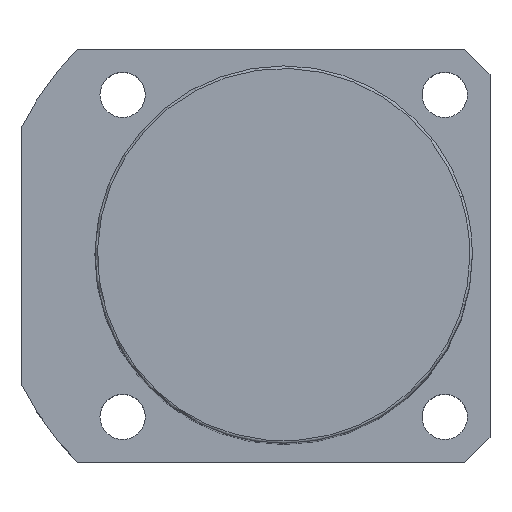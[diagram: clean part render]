
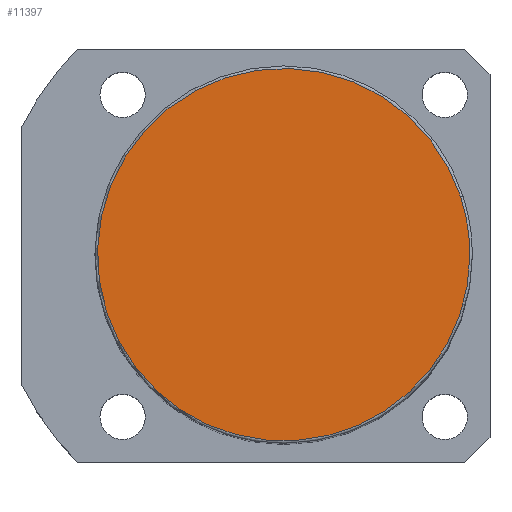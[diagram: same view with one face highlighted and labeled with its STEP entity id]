
A CAD part, top view. The second image highlights one B-rep face of the part: STEP entity #11397.
In plain terms, the highlighted planar face has unit normal (0, 0, 1).
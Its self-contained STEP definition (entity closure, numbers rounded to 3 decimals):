
#11330=CARTESIAN_POINT('',(35.189,11.434,158.0));
#11331=VERTEX_POINT('',#11330);
#11349=CARTESIAN_POINT('',(-35.189,-11.434,158.0));
#11350=VERTEX_POINT('',#11349);
#11358=CARTESIAN_POINT('',(0.0,0.0,158.0));
#11359=DIRECTION('',(0.0,0.0,1.0));
#11360=DIRECTION('',(1.0,0.0,0.0));
#11361=AXIS2_PLACEMENT_3D('',#11358,#11359,#11360);
#11362=CIRCLE('',#11361,37.0);
#11363=EDGE_CURVE('no 5163',#11331,#11350,#11362,.T.);
#11373=CARTESIAN_POINT('',(37.0,0.0,158.0));
#11374=VERTEX_POINT('',#11373);
#11375=CARTESIAN_POINT('',(0.0,0.0,158.0));
#11376=DIRECTION('',(0.0,0.0,1.0));
#11377=DIRECTION('',(1.0,0.0,0.0));
#11378=AXIS2_PLACEMENT_3D('',#11375,#11376,#11377);
#11379=CIRCLE('',#11378,37.0);
#11380=EDGE_CURVE('no 5172',#11374,#11331,#11379,.T.);
#11381=ORIENTED_EDGE('',*,*,#11380,.T.);
#11382=ORIENTED_EDGE('',*,*,#11363,.T.);
#11383=CARTESIAN_POINT('',(0.0,0.0,158.0));
#11384=DIRECTION('',(0.0,0.0,1.0));
#11385=DIRECTION('',(1.0,0.0,0.0));
#11386=AXIS2_PLACEMENT_3D('',#11383,#11384,#11385);
#11387=CIRCLE('',#11386,37.0);
#11388=EDGE_CURVE('no 5178',#11350,#11374,#11387,.T.);
#11389=ORIENTED_EDGE('',*,*,#11388,.T.);
#11390=EDGE_LOOP('',(#11381,#11382,#11389));
#11391=FACE_OUTER_BOUND('',#11390,.T.);
#11392=CARTESIAN_POINT('',(0.0,0.0,158.0));
#11393=DIRECTION('',(0.0,0.0,1.0));
#11394=DIRECTION('',(1.0,0.0,0.0));
#11395=AXIS2_PLACEMENT_3D('',#11392,#11393,#11394);
#11396=PLANE('',#11395);
#11397=ADVANCED_FACE('no 5165',(#11391),#11396,.T.);
